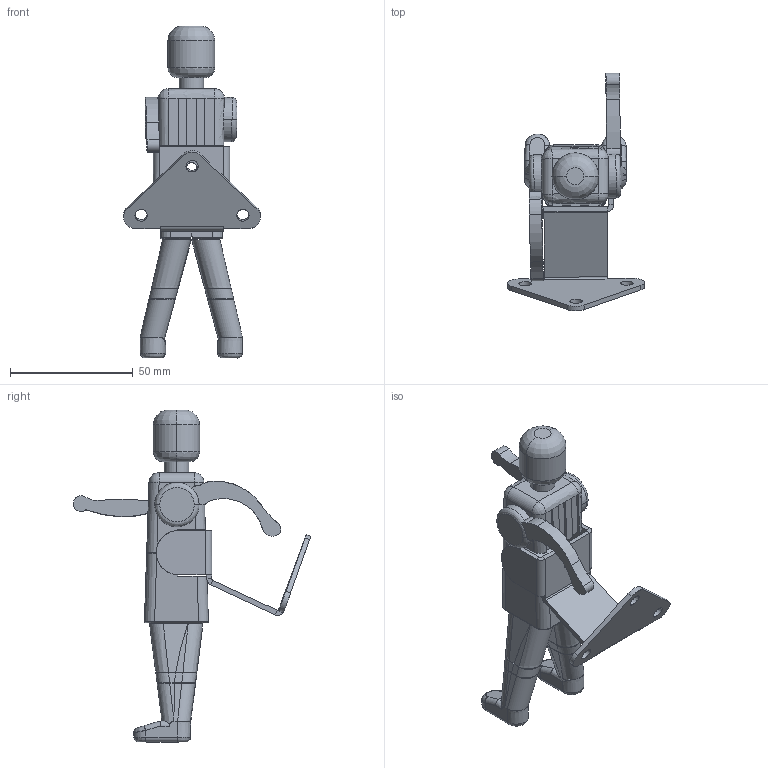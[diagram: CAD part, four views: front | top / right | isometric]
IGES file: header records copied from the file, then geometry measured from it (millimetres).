
Start section: START RECORD GO HERE.
Global section: file name: Wall_Champions_1.igs; native system: DASSAULT SYSTEMES CATIA V5 R21 - www.3ds.com; preprocessor: CATIA Version 5 Release 21 ; author: DISSENY; organization: DISSENY-PC; date: 20170510.103913; units: millimetre
Bounding box: 55.69 x 96.64 x 135 mm (x, y, z)
Surface area: 26104.8 mm2 (no closed solid volume)
Topology: 0 solids, 0 shells, 261 faces, 1234 edges, 1234 vertices
Faces by surface type: plane 134, revolution 109, bspline 18
